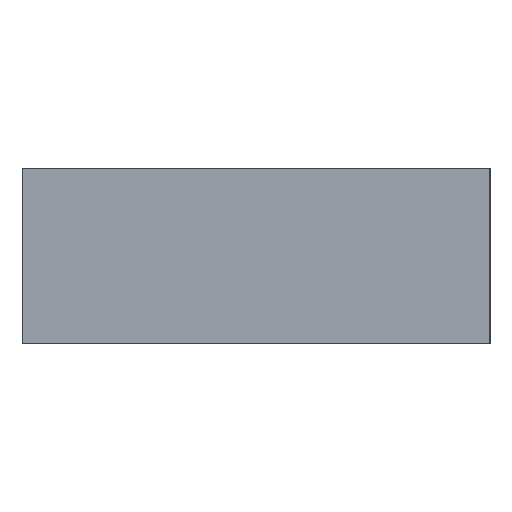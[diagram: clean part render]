
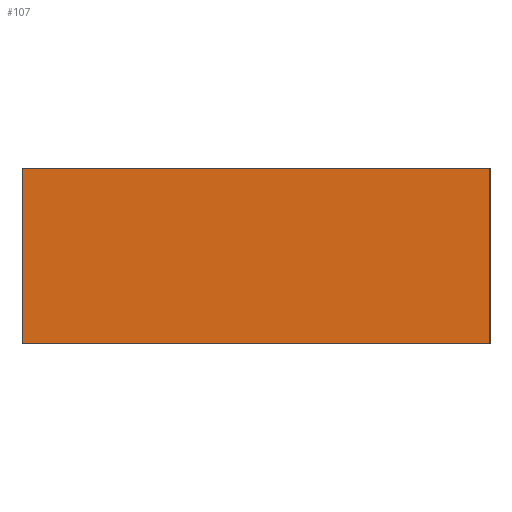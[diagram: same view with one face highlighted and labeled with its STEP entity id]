
A CAD part, left-side view. The second image highlights one B-rep face of the part: STEP entity #107.
In plain terms, the highlighted planar face has unit normal (-1, 0, 0).
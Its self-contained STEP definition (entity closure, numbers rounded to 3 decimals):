
#107=ADVANCED_FACE('',(#632),#634,.T.);
#632=FACE_BOUND('',#633,.T.);
#633=EDGE_LOOP('',(#1035,#1036,#1037,#1038));
#634=PLANE('',#635);
#635=AXIS2_PLACEMENT_3D('',#636,#637,#638);
#636=CARTESIAN_POINT('',(-100.,40.,0.));
#637=DIRECTION('',(-1.,0.,0.));
#638=DIRECTION('',(0.,-1.,0.));
#1035=ORIENTED_EDGE('',*,*,#1227,.T.);
#1036=ORIENTED_EDGE('',*,*,#1250,.T.);
#1037=ORIENTED_EDGE('',*,*,#1251,.F.);
#1038=ORIENTED_EDGE('',*,*,#1252,.F.);
#1227=EDGE_CURVE('',#1337,#1338,#1339,.T.);
#1250=EDGE_CURVE('',#1338,#1383,#1384,.T.);
#1251=EDGE_CURVE('',#1385,#1383,#1386,.T.);
#1252=EDGE_CURVE('',#1337,#1385,#1387,.T.);
#1337=VERTEX_POINT('',#1521);
#1338=VERTEX_POINT('',#1522);
#1339=LINE('',#1523,#1524);
#1383=VERTEX_POINT('',#1628);
#1384=LINE('',#1629,#1630);
#1385=VERTEX_POINT('',#1632);
#1386=LINE('',#1633,#1634);
#1387=LINE('',#1636,#1637);
#1521=CARTESIAN_POINT('',(-100.,40.,0.));
#1522=CARTESIAN_POINT('',(-100.,-40.,0.));
#1523=CARTESIAN_POINT('',(-100.,40.,0.));
#1524=VECTOR('',#1525,1.);
#1525=DIRECTION('',(0.,-1.,0.));
#1628=CARTESIAN_POINT('',(-100.,-40.,30.));
#1629=CARTESIAN_POINT('',(-100.,-40.,0.));
#1630=VECTOR('',#1631,1.);
#1631=DIRECTION('',(0.,0.,1.));
#1632=CARTESIAN_POINT('',(-100.,40.,30.));
#1633=CARTESIAN_POINT('',(-100.,40.,30.));
#1634=VECTOR('',#1635,1.);
#1635=DIRECTION('',(0.,-1.,0.));
#1636=CARTESIAN_POINT('',(-100.,40.,0.));
#1637=VECTOR('',#1638,1.);
#1638=DIRECTION('',(0.,0.,1.));
